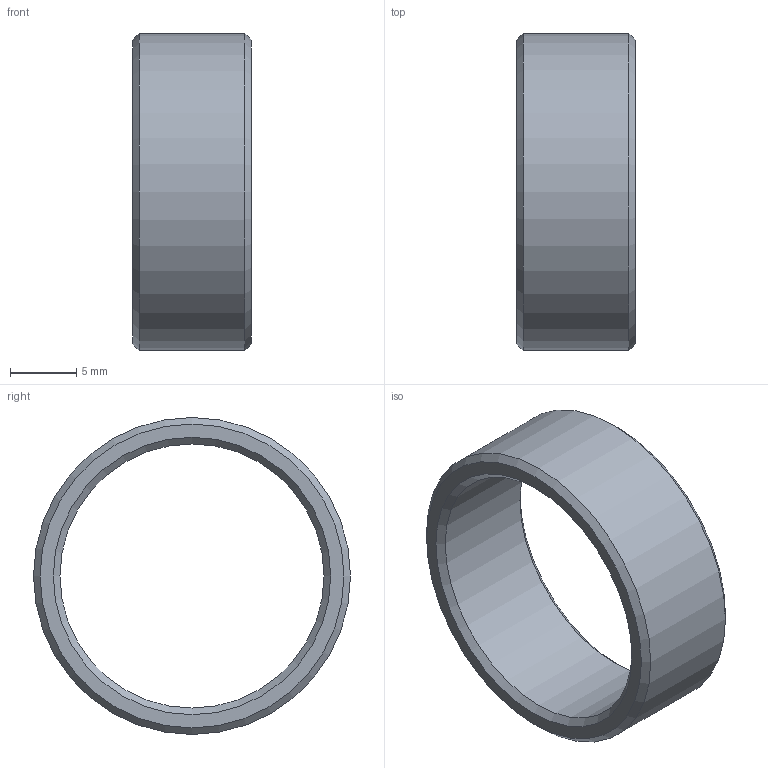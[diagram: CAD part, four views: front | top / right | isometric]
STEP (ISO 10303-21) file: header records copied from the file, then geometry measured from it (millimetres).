
FILE_DESCRIPTION(/* description */ (''),/* implementation_level */ '2;1');
FILE_NAME(/* name */ '',/* time_stamp */ '2025-11-19T16:40:12+09:00',/* author */ ('jhkim'),/* organization */ (''),/* preprocessor_version */ 'ST-DEVELOPER v20.1',/* originating_system */ 'Autodesk Inventor 2026',/* authorisation */ '');
FILE_SCHEMA (('AUTOMOTIVE_DESIGN { 1 0 10303 214 3 1 1 }'));
Length unit declared in the file: millimetre
Products named in the file (1): 칼라 1
Bounding box: 9 x 24 x 24 mm (x, y, z)
Volume: 1209.5 mm3; surface area: 1439.6 mm2
Topology: 1 solids, 1 shells, 8 faces, 16 edges, 10 vertices
Faces by surface type: cone 4, plane 2, cylinder 2
Full cylindrical faces by diameter (mm): 20 x1, 24 x1
Entity records: 261 total; most frequent: DIRECTION 44, CARTESIAN_POINT 35, ORIENTED_EDGE 32, AXIS2_PLACEMENT_3D 19, EDGE_CURVE 16, EDGE_LOOP 10, CIRCLE 10, VERTEX_POINT 10
